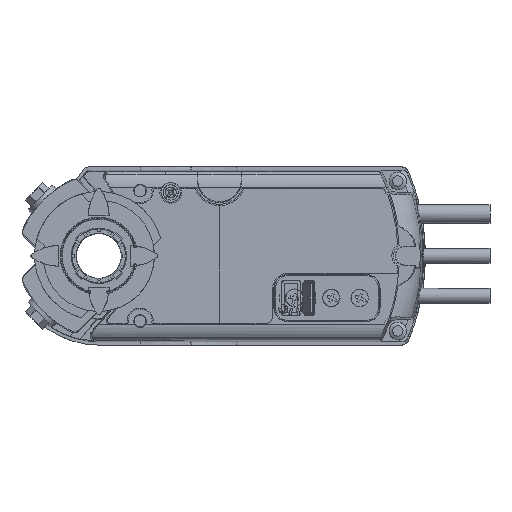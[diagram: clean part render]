
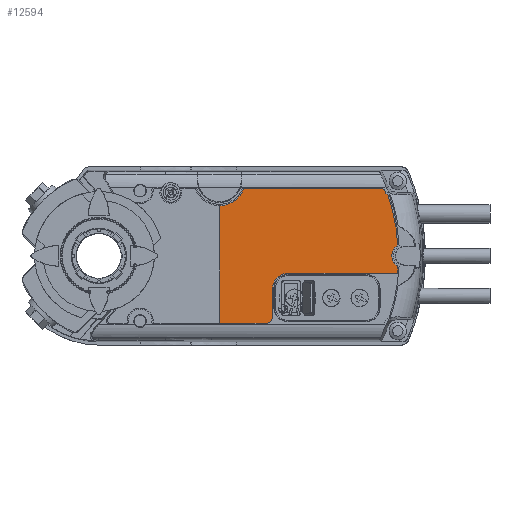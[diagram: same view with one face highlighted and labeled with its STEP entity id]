
A CAD part, top view. The second image highlights one B-rep face of the part: STEP entity #12594.
In plain terms, the highlighted planar face has unit normal (0, 0, 1).
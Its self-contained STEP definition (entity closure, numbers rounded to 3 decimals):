
#12594=ADVANCED_FACE('',(#16902),#15096,.T.);
#15096=PLANE('',#60432);
#16902=FACE_OUTER_BOUND('',#19679,.T.);
#19679=EDGE_LOOP('',(#34043,#34044,#34045,#34046,#34047,#34048,#34049,#34050,
#34051,#34052,#34053,#34054));
#23716=LINE('',#88952,#27130);
#23721=LINE('',#88966,#27135);
#23728=LINE('',#88996,#27142);
#23731=LINE('',#89010,#27145);
#23735=LINE('',#89018,#27149);
#27130=VECTOR('',#68649,1.);
#27135=VECTOR('',#68662,1.);
#27142=VECTOR('',#68695,1.);
#27145=VECTOR('',#68712,1.);
#27149=VECTOR('',#68720,1.);
#34043=ORIENTED_EDGE('',*,*,#51232,.F.);
#34044=ORIENTED_EDGE('',*,*,#51228,.T.);
#34045=ORIENTED_EDGE('',*,*,#51223,.T.);
#34046=ORIENTED_EDGE('',*,*,#51199,.T.);
#34047=ORIENTED_EDGE('',*,*,#51203,.T.);
#34048=ORIENTED_EDGE('',*,*,#51206,.T.);
#34049=ORIENTED_EDGE('',*,*,#51209,.T.);
#34050=ORIENTED_EDGE('',*,*,#51212,.T.);
#34051=ORIENTED_EDGE('',*,*,#51215,.T.);
#34052=ORIENTED_EDGE('',*,*,#51218,.T.);
#34053=ORIENTED_EDGE('',*,*,#51221,.T.);
#34054=ORIENTED_EDGE('',*,*,#51227,.T.);
#45482=VERTEX_POINT('',#88951);
#45483=VERTEX_POINT('',#88953);
#45485=VERTEX_POINT('',#88959);
#45487=VERTEX_POINT('',#88965);
#45489=VERTEX_POINT('',#88971);
#45491=VERTEX_POINT('',#88977);
#45493=VERTEX_POINT('',#88983);
#45495=VERTEX_POINT('',#88989);
#45497=VERTEX_POINT('',#88995);
#45499=VERTEX_POINT('',#89001);
#45501=VERTEX_POINT('',#89007);
#45502=VERTEX_POINT('',#89011);
#51199=EDGE_CURVE('',#45483,#45482,#23716,.T.);
#51203=EDGE_CURVE('',#45482,#45485,#56954,.T.);
#51206=EDGE_CURVE('',#45485,#45487,#23721,.T.);
#51209=EDGE_CURVE('',#45487,#45489,#56956,.T.);
#51212=EDGE_CURVE('',#45489,#45491,#56958,.T.);
#51215=EDGE_CURVE('',#45491,#45493,#56960,.T.);
#51218=EDGE_CURVE('',#45493,#45495,#56962,.T.);
#51221=EDGE_CURVE('',#45495,#45497,#23728,.T.);
#51223=EDGE_CURVE('',#45499,#45483,#56964,.T.);
#51227=EDGE_CURVE('',#45497,#45501,#56966,.T.);
#51228=EDGE_CURVE('',#45502,#45499,#23731,.T.);
#51232=EDGE_CURVE('',#45502,#45501,#23735,.T.);
#56954=CIRCLE('',#60408,7.);
#56956=CIRCLE('',#60412,87.4);
#56958=CIRCLE('',#60415,6.);
#56960=CIRCLE('',#60418,87.4);
#56962=CIRCLE('',#60421,7.5);
#56964=CIRCLE('',#60425,3.);
#56966=CIRCLE('',#60428,11.8);
#60408=AXIS2_PLACEMENT_3D('',#88960,#68656,#68657);
#60412=AXIS2_PLACEMENT_3D('',#88972,#68668,#68669);
#60415=AXIS2_PLACEMENT_3D('',#88978,#68675,#68676);
#60418=AXIS2_PLACEMENT_3D('',#88984,#68682,#68683);
#60421=AXIS2_PLACEMENT_3D('',#88990,#68689,#68690);
#60425=AXIS2_PLACEMENT_3D('',#89000,#68700,#68701);
#60428=AXIS2_PLACEMENT_3D('',#89008,#68708,#68709);
#60432=AXIS2_PLACEMENT_3D('',#89019,#68721,#68722);
#68649=DIRECTION('',(0.,1.,0.));
#68656=DIRECTION('',(0.,0.,-1.));
#68657=DIRECTION('',(1.,0.,0.));
#68662=DIRECTION('',(1.,0.,0.));
#68668=DIRECTION('',(0.,0.,1.));
#68669=DIRECTION('',(1.,0.,0.));
#68675=DIRECTION('',(0.,0.,-1.));
#68676=DIRECTION('',(1.,0.,0.));
#68682=DIRECTION('',(0.,0.,1.));
#68683=DIRECTION('',(1.,0.,0.));
#68689=DIRECTION('',(0.,0.,-1.));
#68690=DIRECTION('',(1.,0.,0.));
#68695=DIRECTION('',(-1.,0.,0.));
#68700=DIRECTION('',(0.,0.,1.));
#68701=DIRECTION('',(1.,0.,0.));
#68708=DIRECTION('',(0.,0.,-1.));
#68709=DIRECTION('',(1.,0.,0.));
#68712=DIRECTION('',(1.,0.,0.));
#68720=DIRECTION('',(0.,1.,0.));
#68721=DIRECTION('',(0.,0.,1.));
#68722=DIRECTION('',(1.,0.,0.));
#88951=CARTESIAN_POINT('',(80.,-14.999,29.96));
#88952=CARTESIAN_POINT('',(80.,-27.999,29.96));
#88953=CARTESIAN_POINT('',(80.,-27.999,29.96));
#88959=CARTESIAN_POINT('',(87.,-7.999,29.96));
#88960=CARTESIAN_POINT('',(87.,-14.999,29.96));
#88965=CARTESIAN_POINT('',(137.333,-7.999,29.96));
#88966=CARTESIAN_POINT('',(87.,-7.999,29.96));
#88971=CARTESIAN_POINT('',(137.556,-5.027,29.96));
#88972=CARTESIAN_POINT('',(50.3,0.001,29.96));
#88977=CARTESIAN_POINT('',(137.556,5.028,29.96));
#88978=CARTESIAN_POINT('',(140.83,0.001,29.96));
#88983=CARTESIAN_POINT('',(133.095,27.997,29.96));
#88984=CARTESIAN_POINT('',(50.3,0.001,29.96));
#88989=CARTESIAN_POINT('',(130.716,31.001,29.96));
#88990=CARTESIAN_POINT('',(137.59,34.001,29.96));
#88995=CARTESIAN_POINT('',(66.714,31.001,29.96));
#88996=CARTESIAN_POINT('',(130.09,31.001,29.96));
#89000=CARTESIAN_POINT('',(77.,-27.999,29.96));
#89001=CARTESIAN_POINT('',(77.,-30.999,29.96));
#89007=CARTESIAN_POINT('',(55.57,23.081,29.96));
#89008=CARTESIAN_POINT('',(55.57,34.881,29.96));
#89010=CARTESIAN_POINT('',(26.,-30.999,29.96));
#89011=CARTESIAN_POINT('',(55.57,-30.999,29.96));
#89018=CARTESIAN_POINT('',(55.57,-29.799,29.96));
#89019=CARTESIAN_POINT('',(5.281,-29.799,29.96));
